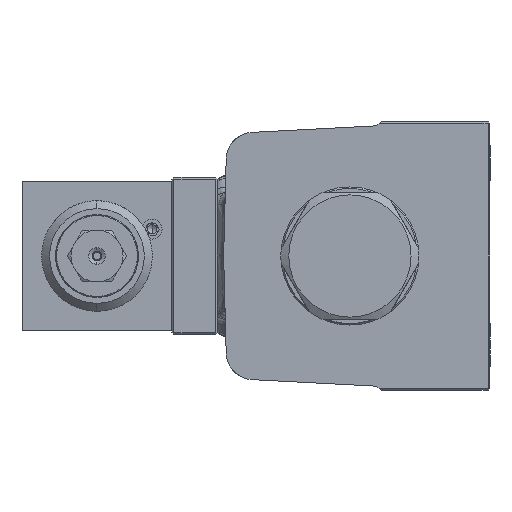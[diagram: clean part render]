
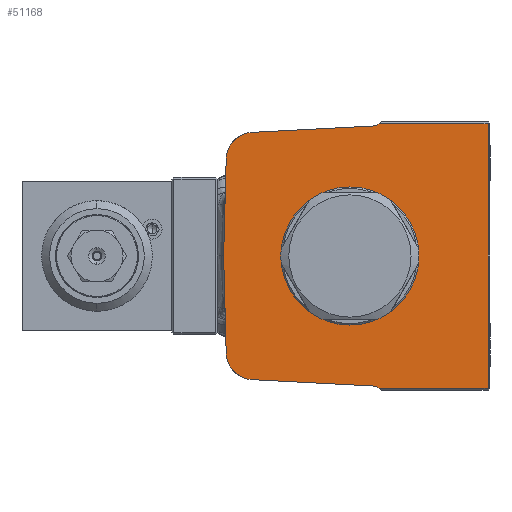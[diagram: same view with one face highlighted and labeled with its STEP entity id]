
A CAD part, left-side view. The second image highlights one B-rep face of the part: STEP entity #51168.
In plain terms, the highlighted planar face has unit normal (-1, 0, 0).
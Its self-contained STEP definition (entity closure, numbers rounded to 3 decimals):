
#1992 = DIRECTION ( 'NONE',  ( 0., 1., 0. ) ) ;
#2964 = DIRECTION ( 'NONE',  ( 0., -0.026, 1. ) ) ;
#3289 = DIRECTION ( 'NONE',  ( 0., 0., 1. ) ) ;
#3775 = DIRECTION ( 'NONE',  ( 1., 0., 0. ) ) ;
#4948 = CIRCLE ( 'NONE', #16904, 3. ) ;
#5609 = DIRECTION ( 'NONE',  ( 0., -1., 0. ) ) ;
#5749 = DIRECTION ( 'NONE',  ( 0., 0., 1. ) ) ;
#6041 = FACE_BOUND ( 'NONE', #61572, .T. ) ;
#6170 = CARTESIAN_POINT ( 'NONE',  ( -46.6, -5.85, 32.94 ) ) ;
#6212 = CARTESIAN_POINT ( 'NONE',  ( -46.6, 32., 0. ) ) ;
#6563 = CIRCLE ( 'NONE', #64661, 3. ) ;
#6942 = VECTOR ( 'NONE', #42876, 1000. ) ;
#7401 = VERTEX_POINT ( 'NONE', #58486 ) ;
#9976 = EDGE_LOOP ( 'NONE', ( #17089, #21359, #34744, #33408, #91883, #88688, #42476, #81372, #69621, #52700, #62568 ) ) ;
#9983 = CARTESIAN_POINT ( 'NONE',  ( -46.6, -5.85, -32.94 ) ) ;
#10067 = VECTOR ( 'NONE', #1992, 1000. ) ;
#10538 = AXIS2_PLACEMENT_3D ( 'NONE', #68579, #82642, #11096 ) ;
#11096 = DIRECTION ( 'NONE',  ( 0., 0., 1. ) ) ;
#12818 = DIRECTION ( 'NONE',  ( -1., 0., 0. ) ) ;
#13445 = CARTESIAN_POINT ( 'NONE',  ( -46.6, 0., 0. ) ) ;
#13716 = CARTESIAN_POINT ( 'NONE',  ( -46.6, 1.706, -32.544 ) ) ;
#16904 = AXIS2_PLACEMENT_3D ( 'NONE', #18791, #3775, #60692 ) ;
#17089 = ORIENTED_EDGE ( 'NONE', *, *, #47604, .T. ) ;
#18142 = LINE ( 'NONE', #26837, #47202 ) ;
#18354 = VECTOR ( 'NONE', #84618, 1000. ) ;
#18791 = CARTESIAN_POINT ( 'NONE',  ( -46.6, -5.693, -35.936 ) ) ;
#20069 = ORIENTED_EDGE ( 'NONE', *, *, #24732, .F. ) ;
#21357 = VERTEX_POINT ( 'NONE', #82409 ) ;
#21359 = ORIENTED_EDGE ( 'NONE', *, *, #52021, .T. ) ;
#22866 = VERTEX_POINT ( 'NONE', #43127 ) ;
#24732 = EDGE_CURVE ( 'NONE', #69623, #48187, #28730, .T. ) ;
#25204 = CARTESIAN_POINT ( 'NONE',  ( -46.6, -35.5, -33.5 ) ) ;
#26502 = VERTEX_POINT ( 'NONE', #54283 ) ;
#26837 = CARTESIAN_POINT ( 'NONE',  ( -46.6, 1.706, 32.544 ) ) ;
#27052 = EDGE_CURVE ( 'NONE', #7401, #82864, #6563, .T. ) ;
#28730 = CIRCLE ( 'NONE', #86546, 16. ) ;
#29523 = VECTOR ( 'NONE', #91963, 1000. ) ;
#32656 = DIRECTION ( 'NONE',  ( 0., 0., 1. ) ) ;
#32725 = CARTESIAN_POINT ( 'NONE',  ( -46.6, 31.978, 0.837 ) ) ;
#32767 = DIRECTION ( 'NONE',  ( 0., -1., 0. ) ) ;
#33018 = CARTESIAN_POINT ( 'NONE',  ( -46.6, 24.726, 31.337 ) ) ;
#33408 = ORIENTED_EDGE ( 'NONE', *, *, #80979, .T. ) ;
#34179 = DIRECTION ( 'NONE',  ( 0., -1., 0. ) ) ;
#34744 = ORIENTED_EDGE ( 'NONE', *, *, #74085, .T. ) ;
#35271 = AXIS2_PLACEMENT_3D ( 'NONE', #64159, #49159, #5749 ) ;
#41989 = EDGE_CURVE ( 'NONE', #81187, #82864, #18142, .T. ) ;
#42476 = ORIENTED_EDGE ( 'NONE', *, *, #70513, .T. ) ;
#42876 = DIRECTION ( 'NONE',  ( 0., 0., 1. ) ) ;
#42901 = PLANE ( 'NONE',  #35271 ) ;
#43041 = EDGE_CURVE ( 'NONE', #48187, #69623, #72708, .T. ) ;
#43127 = CARTESIAN_POINT ( 'NONE',  ( -46.6, 31.358, -24.53 ) ) ;
#43476 = CARTESIAN_POINT ( 'NONE',  ( -46.6, 24.726, -31.337 ) ) ;
#43614 = VERTEX_POINT ( 'NONE', #78008 ) ;
#45626 = VERTEX_POINT ( 'NONE', #43476 ) ;
#46123 = DIRECTION ( 'NONE',  ( 1., 0., 0. ) ) ;
#46424 = CARTESIAN_POINT ( 'NONE',  ( -46.6, 24.36, -24.347 ) ) ;
#47202 = VECTOR ( 'NONE', #69027, 1000. ) ;
#47604 = EDGE_CURVE ( 'NONE', #78959, #43614, #4948, .T. ) ;
#48187 = VERTEX_POINT ( 'NONE', #62669 ) ;
#49159 = DIRECTION ( 'NONE',  ( -1., 0., 0. ) ) ;
#51168 = ADVANCED_FACE ( 'NONE', ( #72006, #6041 ), #42901, .T. ) ;
#52021 = EDGE_CURVE ( 'NONE', #43614, #21357, #86209, .T. ) ;
#52700 = ORIENTED_EDGE ( 'NONE', *, *, #75589, .F. ) ;
#52954 = LINE ( 'NONE', #70486, #29523 ) ;
#53775 = CIRCLE ( 'NONE', #78859, 7. ) ;
#54283 = CARTESIAN_POINT ( 'NONE',  ( -46.6, 31.358, 24.53 ) ) ;
#55074 = EDGE_CURVE ( 'NONE', #45626, #78959, #62019, .T. ) ;
#58486 = CARTESIAN_POINT ( 'NONE',  ( -46.6, -7.444, 33.5 ) ) ;
#60572 = LINE ( 'NONE', #32725, #79588 ) ;
#60692 = DIRECTION ( 'NONE',  ( 0., 0., 1. ) ) ;
#61572 = EDGE_LOOP ( 'NONE', ( #92712, #20069 ) ) ;
#62019 = LINE ( 'NONE', #13716, #18354 ) ;
#62568 = ORIENTED_EDGE ( 'NONE', *, *, #55074, .T. ) ;
#62669 = CARTESIAN_POINT ( 'NONE',  ( -46.6, -16., 0. ) ) ;
#64159 = CARTESIAN_POINT ( 'NONE',  ( -46.6, -35.5, -34. ) ) ;
#64661 = AXIS2_PLACEMENT_3D ( 'NONE', #82297, #68242, #32656 ) ;
#67857 = EDGE_CURVE ( 'NONE', #90937, #26502, #60572, .T. ) ;
#68242 = DIRECTION ( 'NONE',  ( 1., 0., 0. ) ) ;
#68579 = CARTESIAN_POINT ( 'NONE',  ( -46.6, 24.36, 24.347 ) ) ;
#69027 = DIRECTION ( 'NONE',  ( 0., -0.999, 0.052 ) ) ;
#69621 = ORIENTED_EDGE ( 'NONE', *, *, #79910, .T. ) ;
#69623 = VERTEX_POINT ( 'NONE', #75869 ) ;
#70472 = LINE ( 'NONE', #78939, #10067 ) ;
#70486 = CARTESIAN_POINT ( 'NONE',  ( -46.6, 31.978, -0.837 ) ) ;
#70513 = EDGE_CURVE ( 'NONE', #81187, #26502, #75369, .T. ) ;
#70764 = LINE ( 'NONE', #71657, #6942 ) ;
#71657 = CARTESIAN_POINT ( 'NONE',  ( -46.6, -35., -34. ) ) ;
#72006 = FACE_OUTER_BOUND ( 'NONE', #9976, .T. ) ;
#72708 = CIRCLE ( 'NONE', #81193, 16. ) ;
#72880 = VECTOR ( 'NONE', #32767, 1000. ) ;
#74085 = EDGE_CURVE ( 'NONE', #21357, #80435, #70764, .T. ) ;
#75369 = CIRCLE ( 'NONE', #10538, 7. ) ;
#75589 = EDGE_CURVE ( 'NONE', #45626, #22866, #53775, .T. ) ;
#75869 = CARTESIAN_POINT ( 'NONE',  ( -46.6, 16., 0. ) ) ;
#76696 = CARTESIAN_POINT ( 'NONE',  ( -46.6, 0., 0. ) ) ;
#78008 = CARTESIAN_POINT ( 'NONE',  ( -46.6, -7.444, -33.5 ) ) ;
#78859 = AXIS2_PLACEMENT_3D ( 'NONE', #46424, #46123, #3289 ) ;
#78939 = CARTESIAN_POINT ( 'NONE',  ( -46.6, -35.5, 33.5 ) ) ;
#78959 = VERTEX_POINT ( 'NONE', #9983 ) ;
#79588 = VECTOR ( 'NONE', #2964, 1000. ) ;
#79910 = EDGE_CURVE ( 'NONE', #90937, #22866, #52954, .T. ) ;
#80435 = VERTEX_POINT ( 'NONE', #85305 ) ;
#80979 = EDGE_CURVE ( 'NONE', #80435, #7401, #70472, .T. ) ;
#81187 = VERTEX_POINT ( 'NONE', #33018 ) ;
#81193 = AXIS2_PLACEMENT_3D ( 'NONE', #76696, #83833, #34179 ) ;
#81372 = ORIENTED_EDGE ( 'NONE', *, *, #67857, .F. ) ;
#82297 = CARTESIAN_POINT ( 'NONE',  ( -46.6, -5.693, 35.936 ) ) ;
#82409 = CARTESIAN_POINT ( 'NONE',  ( -46.6, -35., -33.5 ) ) ;
#82642 = DIRECTION ( 'NONE',  ( -1., 0., 0. ) ) ;
#82864 = VERTEX_POINT ( 'NONE', #6170 ) ;
#83833 = DIRECTION ( 'NONE',  ( -1., 0., 0. ) ) ;
#84618 = DIRECTION ( 'NONE',  ( 0., -0.999, -0.052 ) ) ;
#85305 = CARTESIAN_POINT ( 'NONE',  ( -46.6, -35., 33.5 ) ) ;
#86209 = LINE ( 'NONE', #25204, #72880 ) ;
#86546 = AXIS2_PLACEMENT_3D ( 'NONE', #13445, #12818, #5609 ) ;
#88688 = ORIENTED_EDGE ( 'NONE', *, *, #41989, .F. ) ;
#90937 = VERTEX_POINT ( 'NONE', #6212 ) ;
#91883 = ORIENTED_EDGE ( 'NONE', *, *, #27052, .T. ) ;
#91963 = DIRECTION ( 'NONE',  ( 0., -0.026, -1. ) ) ;
#92712 = ORIENTED_EDGE ( 'NONE', *, *, #43041, .F. ) ;
